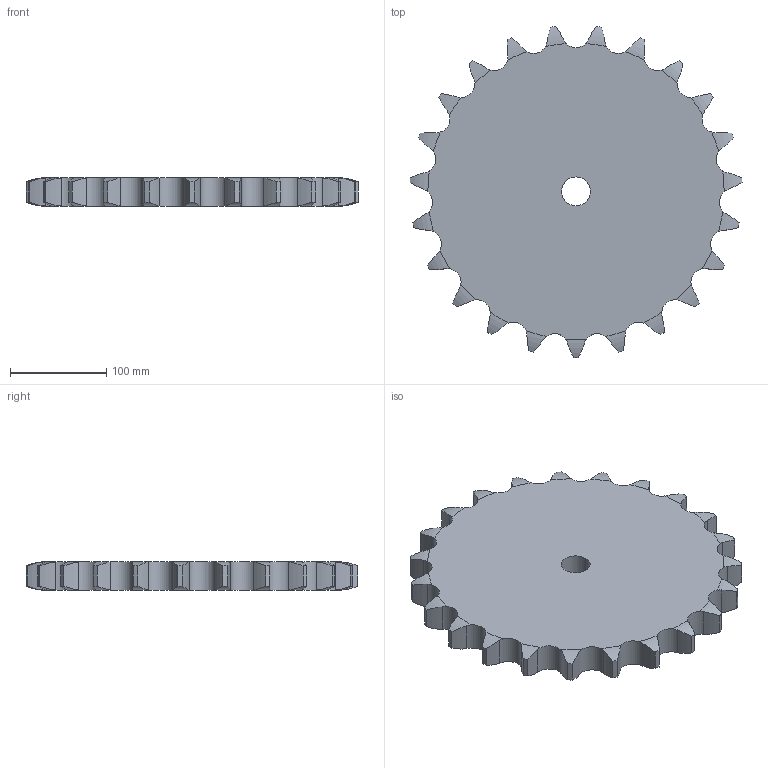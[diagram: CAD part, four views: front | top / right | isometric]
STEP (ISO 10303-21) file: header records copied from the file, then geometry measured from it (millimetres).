
FILE_DESCRIPTION((''),'2;1');
FILE_NAME('500-751-0023_PRT','2021-02-12T',('Brieden'),('Brieden'),'PRO/ENGINEER BY PARAMETRIC TECHNOLOGY CORPORATION, 2010160','PRO/ENGINEER BY PARAMETRIC TECHNOLOGY CORPORATION, 2010160','');
FILE_SCHEMA(('AUTOMOTIVE_DESIGN { 1 0 10303 214 1 1 1 1 }'));
Length unit declared in the file: millimetre
Products named in the file (1): 500-751-0023_PRT
Bounding box: 344.5 x 343.71 x 29.4 mm (x, y, z)
Volume: 2277378.2 mm3; surface area: 202069.8 mm2
Topology: 1 solids, 1 shells, 142 faces, 420 edges, 280 vertices
Faces by surface type: cylinder 94, torus 46, plane 2
Entity records: 7154 total; most frequent: CARTESIAN_POINT 2247, ORIENTED_EDGE 840, DIRECTION 662, PRESENTATION_STYLE_ASSIGNMENT 421, STYLED_ITEM 421, CURVE_STYLE 420, EDGE_CURVE 420, AXIS2_PLACEMENT_3D 284
